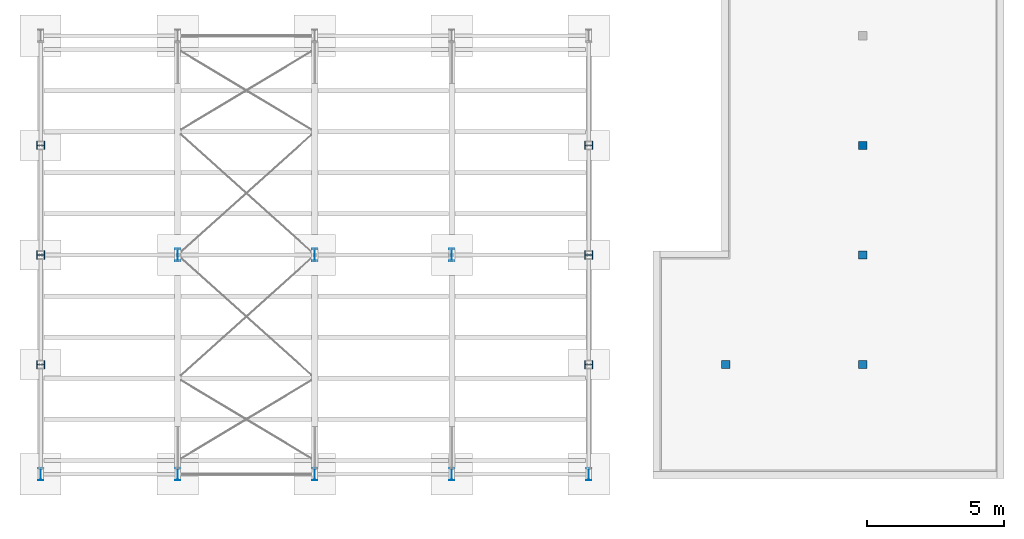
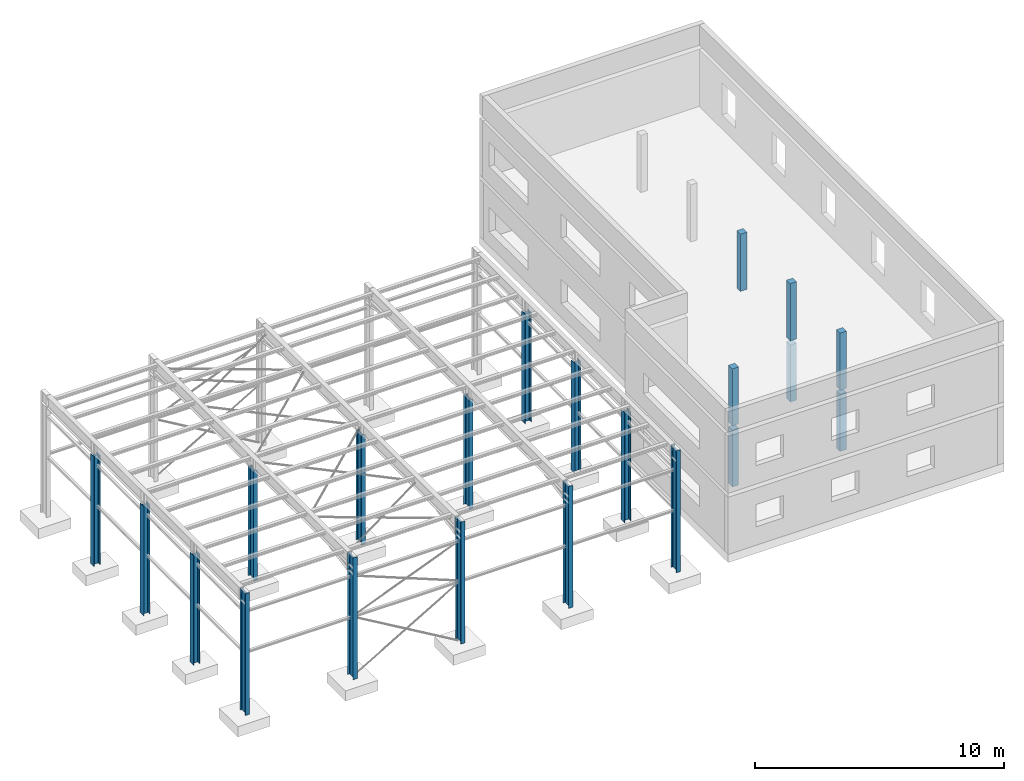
# Not in any storey, part 1 of 50: 21 columns, 36 openings.
"""IFC4 model written with IfcOpenShell, lengths in metres."""

from ifc_helpers import new_model, entity, si_unit, converted_unit, derived_unit, direction, frame, origin, origin_2d, origin_2d_with_axis, place, context, subcontext, project, spatial, indexed_curve, circle, i_section, outline, extrude, clip, halfspace, source, transform, mapped, material, type_object, type_shapes, element, save


model = new_model("IFC4")

# Units and contexts
model_context = context("Model", 3, precision=1e-05, world=origin(), true_north=direction((6.123233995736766e-17, 1.0)))
body_context = subcontext(model_context, "Body", "Model", "MODEL_VIEW")
ifc_project = project(units=[si_unit("LENGTHUNIT", "METRE"), si_unit("AREAUNIT", "SQUARE_METRE"), converted_unit("PLANEANGLEUNIT", "DEGREE", entity("IfcPlaneAngleMeasure", 0.017453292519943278), si_unit("PLANEANGLEUNIT", "RADIAN"), dimensions=[0, 0, 0, 0, 0, 0, 0]), si_unit("VOLUMEUNIT", "CUBIC_METRE"), derived_unit("THERMALTRANSMITTANCEUNIT", [(si_unit("MASSUNIT", "GRAM", prefix="KILO"), 1), (si_unit("THERMODYNAMICTEMPERATUREUNIT", "KELVIN"), -1), (si_unit("TIMEUNIT", "SECOND"), -3)])], contexts=[model_context])

# Site
site_placement = place(None, origin())
site = spatial("IfcSite", under=ifc_project, at=site_placement, Name="Default", CompositionType="ELEMENT")

# Columns
ifc_material_1 = material(Name="Ortbeton - bewehrt Verputzt", Category="Generisch")
column_type_1 = type_object("IfcColumnType", Name="STB Stütze - rechteckig:STB 300 x 300", PredefinedType="COLUMN", material=ifc_material_1)
shared_shape_1 = source(origin(), body_context, "Body", "SweptSolid", [
    extrude(outline(indexed_curve([(-0.15000000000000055, -0.14999999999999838), (0.15000000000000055, -0.14999999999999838), (0.15000000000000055, 0.15000000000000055), (-0.15000000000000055, 0.15000000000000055), (-0.15000000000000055, -0.14999999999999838)], self_intersect=False)), frame((33.19014487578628, 13.929767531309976, 3.0), z_axis=(0.0, 0.0, 1.0), x_axis=(-1.0, 0.0, 0.0)), (0.0, 0.0, 1.0), 2.8000000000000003),
])
type_shapes(column_type_1, [shared_shape_1])
column_1_placement = place(site_placement, origin())
element("IfcColumn", 1, at=column_1_placement, inside=site, type_object=column_type_1, material=ifc_material_1, Name="STB Stütze - rechteckig:STB 300 x 300", ObjectType="STB Stütze - rechteckig:STB 300 x 300", PredefinedType="COLUMN", context=body_context, shape_type="MappedRepresentation", body=[
    mapped(shared_shape_1, transform((0.0, 0.0, 0.0), scale=1.0)),
])
column_type_2 = type_object("IfcColumnType", Name="STB Stütze - rechteckig:STB 300 x 300", PredefinedType="COLUMN", material=ifc_material_1)
shared_shape_2 = source(origin(), body_context, "Body", "SweptSolid", [
    extrude(outline(indexed_curve([(-0.15000000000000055, -0.14999999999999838), (0.15000000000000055, -0.14999999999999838), (0.15000000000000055, 0.15000000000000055), (-0.15000000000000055, 0.15000000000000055), (-0.15000000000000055, -0.14999999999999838)], self_intersect=False)), frame((33.190144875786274, 9.929767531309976, 3.0), z_axis=(0.0, 0.0, 1.0), x_axis=(-1.0, 0.0, 0.0)), (0.0, 0.0, 1.0), 2.8000000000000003),
])
type_shapes(column_type_2, [shared_shape_2])
column_2_placement = place(site_placement, origin())
element("IfcColumn", 2, at=column_2_placement, inside=site, type_object=column_type_2, material=ifc_material_1, Name="STB Stütze - rechteckig:STB 300 x 300", ObjectType="STB Stütze - rechteckig:STB 300 x 300", PredefinedType="COLUMN", context=body_context, shape_type="MappedRepresentation", body=[
    mapped(shared_shape_2, transform((0.0, 0.0, 0.0), scale=1.0)),
])
column_type_3 = type_object("IfcColumnType", Name="STB Stütze - rechteckig:STB 300 x 300", PredefinedType="COLUMN", material=ifc_material_1)
shared_shape_3 = source(origin(), body_context, "Body", "SweptSolid", [
    extrude(outline(indexed_curve([(-0.15000000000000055, -0.14999999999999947), (0.15000000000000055, -0.14999999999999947), (0.15000000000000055, 0.15000000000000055), (-0.15000000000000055, 0.15000000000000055), (-0.15000000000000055, -0.14999999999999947)], self_intersect=False)), frame((33.19014487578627, 5.929767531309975, 3.0), z_axis=(0.0, 0.0, 1.0), x_axis=(-1.0, 0.0, 0.0)), (0.0, 0.0, 1.0), 2.8000000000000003),
])
type_shapes(column_type_3, [shared_shape_3])
column_3_placement = place(site_placement, origin())
element("IfcColumn", 3, at=column_3_placement, inside=site, type_object=column_type_3, material=ifc_material_1, Name="STB Stütze - rechteckig:STB 300 x 300", ObjectType="STB Stütze - rechteckig:STB 300 x 300", PredefinedType="COLUMN", context=body_context, shape_type="MappedRepresentation", body=[
    mapped(shared_shape_3, transform((0.0, 0.0, 0.0), scale=1.0)),
])
column_type_4 = type_object("IfcColumnType", Name="STB Stütze - rechteckig:STB 300 x 300", PredefinedType="COLUMN", material=ifc_material_1)
shared_shape_4 = source(origin(), body_context, "Body", "SweptSolid", [
    extrude(outline(indexed_curve([(-0.15000000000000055, -0.14999999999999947), (0.15000000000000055, -0.14999999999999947), (0.15000000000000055, 0.15000000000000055), (-0.15000000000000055, 0.15000000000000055), (-0.15000000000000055, -0.14999999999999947)], self_intersect=False)), frame((28.190144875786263, 5.929767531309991, 3.0), z_axis=(0.0, 0.0, 1.0), x_axis=(-1.0, 0.0, 0.0)), (0.0, 0.0, 1.0), 2.8000000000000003),
])
type_shapes(column_type_4, [shared_shape_4])
column_4_placement = place(site_placement, origin())
element("IfcColumn", 4, at=column_4_placement, inside=site, type_object=column_type_4, material=ifc_material_1, Name="STB Stütze - rechteckig:STB 300 x 300", ObjectType="STB Stütze - rechteckig:STB 300 x 300", PredefinedType="COLUMN", context=body_context, shape_type="MappedRepresentation", body=[
    mapped(shared_shape_4, transform((0.0, 0.0, 0.0), scale=1.0)),
])
column_type_5 = type_object("IfcColumnType", Name="STB Stütze - rechteckig:STB 300 x 300", PredefinedType="COLUMN", material=ifc_material_1)
shared_shape_5 = source(origin(), body_context, "Body", "SweptSolid", [
    extrude(outline(indexed_curve([(-0.15000000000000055, -0.14999999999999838), (0.15000000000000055, -0.14999999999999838), (0.15000000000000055, 0.15000000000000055), (-0.15000000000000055, 0.15000000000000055), (-0.15000000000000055, -0.14999999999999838)], self_intersect=False)), frame((33.190144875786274, 9.929767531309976, 0.0), z_axis=(0.0, 0.0, 1.0), x_axis=(-1.0, 0.0, 0.0)), (0.0, 0.0, 1.0), 2.8000000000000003),
])
type_shapes(column_type_5, [shared_shape_5])
column_5_placement = place(site_placement, origin())
element("IfcColumn", 5, at=column_5_placement, inside=site, type_object=column_type_5, material=ifc_material_1, Name="STB Stütze - rechteckig:STB 300 x 300", ObjectType="STB Stütze - rechteckig:STB 300 x 300", PredefinedType="COLUMN", context=body_context, shape_type="MappedRepresentation", body=[
    mapped(shared_shape_5, transform((0.0, 0.0, 0.0), scale=1.0)),
])
column_type_6 = type_object("IfcColumnType", Name="STB Stütze - rechteckig:STB 300 x 300", PredefinedType="COLUMN", material=ifc_material_1)
shared_shape_6 = source(origin(), body_context, "Body", "SweptSolid", [
    extrude(outline(indexed_curve([(-0.15000000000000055, -0.14999999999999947), (0.15000000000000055, -0.14999999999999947), (0.15000000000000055, 0.15000000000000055), (-0.15000000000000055, 0.15000000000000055), (-0.15000000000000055, -0.14999999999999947)], self_intersect=False)), frame((33.19014487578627, 5.929767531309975, 0.0), z_axis=(0.0, 0.0, 1.0), x_axis=(-1.0, 0.0, 0.0)), (0.0, 0.0, 1.0), 2.8000000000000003),
])
type_shapes(column_type_6, [shared_shape_6])
column_6_placement = place(site_placement, origin())
element("IfcColumn", 6, at=column_6_placement, inside=site, type_object=column_type_6, material=ifc_material_1, Name="STB Stütze - rechteckig:STB 300 x 300", ObjectType="STB Stütze - rechteckig:STB 300 x 300", PredefinedType="COLUMN", context=body_context, shape_type="MappedRepresentation", body=[
    mapped(shared_shape_6, transform((0.0, 0.0, 0.0), scale=1.0)),
])
column_type_7 = type_object("IfcColumnType", Name="STB Stütze - rechteckig:STB 300 x 300", PredefinedType="COLUMN", material=ifc_material_1)
shared_shape_7 = source(origin(), body_context, "Body", "SweptSolid", [
    extrude(outline(indexed_curve([(-0.15000000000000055, -0.14999999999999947), (0.15000000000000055, -0.14999999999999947), (0.15000000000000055, 0.15000000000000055), (-0.15000000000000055, 0.15000000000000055), (-0.15000000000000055, -0.14999999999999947)], self_intersect=False)), frame((28.190144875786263, 5.929767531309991, 0.0), z_axis=(0.0, 0.0, 1.0), x_axis=(-1.0, 0.0, 0.0)), (0.0, 0.0, 1.0), 2.8000000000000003),
])
type_shapes(column_type_7, [shared_shape_7])
column_7_placement = place(site_placement, origin())
element("IfcColumn", 7, at=column_7_placement, inside=site, type_object=column_type_7, material=ifc_material_1, Name="STB Stütze - rechteckig:STB 300 x 300", ObjectType="STB Stütze - rechteckig:STB 300 x 300", PredefinedType="COLUMN", context=body_context, shape_type="MappedRepresentation", body=[
    mapped(shared_shape_7, transform((0.0, 0.0, 0.0), scale=1.0)),
])

# Column, openings
ifc_material_2 = material(Name="Metall - Baustahl S235", Category="Metall")
column_type_8 = type_object("IfcColumnType", Name="IPE Stütze:IPE 450", PredefinedType="COLUMN", material=ifc_material_2)
column_8_placement = place(site_placement, frame((3.190144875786, 1.92976753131, 6.469233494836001), z_axis=(0.0, 0.0, 1.0), x_axis=(1.0, 0.0, 0.0)))
column_8 = element("IfcColumn", 8, at=column_8_placement, inside=site, type_object=column_type_8, material=ifc_material_2, Name="IPE Stütze:IPE 450", ObjectType="IPE 450", context=model_context, shape_type="Clipping", body=[
    clip(extrude(i_section(OverallWidth=0.19, OverallDepth=0.45, WebThickness=0.0094, FlangeThickness=0.0146, FilletRadius=0.021, at=origin_2d()), origin(), (0.0, 0.0, -1.0), 6.469233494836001), halfspace(frame((-3.190144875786, -1.92976753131, -0.489234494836), z_axis=(0.0, 0.0, -1.0), x_axis=(-1.0, 0.0, 0.0)), True)),
])
opening_1_placement = place(column_8_placement, frame((-0.05, 0.2099, -0.6742334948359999), z_axis=(0.0, 1.0, 0.0), x_axis=(-1.0, 0.0, 0.0)))
element("IfcOpeningElement", 9, at=opening_1_placement, cuts=column_8, ObjectType="Opening", context=model_context, shape_type="SweptSolid", body=[
    extrude(circle(Radius=0.009000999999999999, at=origin_2d_with_axis()), origin(), (0.0, 0.0, 1.0), 0.0156),
])
opening_2_placement = place(column_8_placement, frame((-0.05, 0.2099, -0.574233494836), z_axis=(0.0, 1.0, 0.0), x_axis=(-1.0, 0.0, 0.0)))
element("IfcOpeningElement", 10, at=opening_2_placement, cuts=column_8, ObjectType="Opening", context=model_context, shape_type="SweptSolid", body=[
    extrude(circle(Radius=0.009000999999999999, at=origin_2d_with_axis()), origin(), (0.0, 0.0, 1.0), 0.0156),
])
opening_3_placement = place(column_8_placement, frame((0.05, 0.2099, -1.0242334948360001), z_axis=(0.0, 1.0, 0.0), x_axis=(-1.0, 0.0, 0.0)))
element("IfcOpeningElement", 11, at=opening_3_placement, cuts=column_8, ObjectType="Opening", context=model_context, shape_type="SweptSolid", body=[
    extrude(circle(Radius=0.009000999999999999, at=origin_2d_with_axis()), origin(), (0.0, 0.0, 1.0), 0.0156),
])
opening_4_placement = place(column_8_placement, frame((-0.05, 0.2099, -1.0242334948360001), z_axis=(0.0, 1.0, 0.0), x_axis=(-1.0, 0.0, 0.0)))
element("IfcOpeningElement", 12, at=opening_4_placement, cuts=column_8, ObjectType="Opening", context=model_context, shape_type="SweptSolid", body=[
    extrude(circle(Radius=0.009000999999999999, at=origin_2d_with_axis()), origin(), (0.0, 0.0, 1.0), 0.0156),
])
opening_5_placement = place(column_8_placement, frame((0.05, 0.2099, -0.6742334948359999), z_axis=(0.0, 1.0, 0.0), x_axis=(-1.0, 0.0, 0.0)))
element("IfcOpeningElement", 13, at=opening_5_placement, cuts=column_8, ObjectType="Opening", context=model_context, shape_type="SweptSolid", body=[
    extrude(circle(Radius=0.009000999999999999, at=origin_2d_with_axis()), origin(), (0.0, 0.0, 1.0), 0.0156),
])
opening_6_placement = place(column_8_placement, frame((0.05, 0.2099, -0.574233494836), z_axis=(0.0, 1.0, 0.0), x_axis=(-1.0, 0.0, 0.0)))
element("IfcOpeningElement", 14, at=opening_6_placement, cuts=column_8, ObjectType="Opening", context=model_context, shape_type="SweptSolid", body=[
    extrude(circle(Radius=0.009000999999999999, at=origin_2d_with_axis()), origin(), (0.0, 0.0, 1.0), 0.0156),
])

column_9_placement = place(site_placement, frame((8.190144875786, 1.92976753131, 6.469233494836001), z_axis=(0.0, 0.0, 1.0), x_axis=(1.0, 0.0, 0.0)))
column_9 = element("IfcColumn", 15, at=column_9_placement, inside=site, type_object=column_type_8, material=ifc_material_2, Name="IPE Stütze:IPE 450", ObjectType="IPE 450", context=model_context, shape_type="Clipping", body=[
    clip(extrude(i_section(OverallWidth=0.19, OverallDepth=0.45, WebThickness=0.0094, FlangeThickness=0.0146, FilletRadius=0.021, at=origin_2d()), origin(), (0.0, 0.0, -1.0), 6.469233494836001), halfspace(frame((-8.190144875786, -1.92976753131, -0.489234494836), z_axis=(0.0, 0.0, -1.0), x_axis=(-1.0, 0.0, 0.0)), True)),
])
opening_7_placement = place(column_9_placement, frame((0.05, 0.2099, -0.574233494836), z_axis=(0.0, 1.0, 0.0), x_axis=(-1.0, 0.0, 0.0)))
element("IfcOpeningElement", 16, at=opening_7_placement, cuts=column_9, ObjectType="Opening", context=model_context, shape_type="SweptSolid", body=[
    extrude(circle(Radius=0.009000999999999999, at=origin_2d_with_axis()), origin(), (0.0, 0.0, 1.0), 0.0156),
])
opening_8_placement = place(column_9_placement, frame((0.05, 0.2099, -1.3242334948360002), z_axis=(0.0, 1.0, 0.0), x_axis=(-1.0, 0.0, 0.0)))
element("IfcOpeningElement", 17, at=opening_8_placement, cuts=column_9, ObjectType="Opening", context=model_context, shape_type="SweptSolid", body=[
    extrude(circle(Radius=0.009000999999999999, at=origin_2d_with_axis()), origin(), (0.0, 0.0, 1.0), 0.0156),
])
opening_9_placement = place(column_9_placement, frame((0.05, 0.2099, -0.6742334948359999), z_axis=(0.0, 1.0, 0.0), x_axis=(-1.0, 0.0, 0.0)))
element("IfcOpeningElement", 18, at=opening_9_placement, cuts=column_9, ObjectType="Opening", context=model_context, shape_type="SweptSolid", body=[
    extrude(circle(Radius=0.009000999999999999, at=origin_2d_with_axis()), origin(), (0.0, 0.0, 1.0), 0.0156),
])
opening_10_placement = place(column_9_placement, frame((-0.05, 0.2099, -0.574233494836), z_axis=(0.0, 1.0, 0.0), x_axis=(-1.0, 0.0, 0.0)))
element("IfcOpeningElement", 19, at=opening_10_placement, cuts=column_9, ObjectType="Opening", context=model_context, shape_type="SweptSolid", body=[
    extrude(circle(Radius=0.009000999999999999, at=origin_2d_with_axis()), origin(), (0.0, 0.0, 1.0), 0.0156),
])
opening_11_placement = place(column_9_placement, frame((-0.05, 0.2099, -1.3242334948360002), z_axis=(0.0, 1.0, 0.0), x_axis=(-1.0, 0.0, 0.0)))
element("IfcOpeningElement", 20, at=opening_11_placement, cuts=column_9, ObjectType="Opening", context=model_context, shape_type="SweptSolid", body=[
    extrude(circle(Radius=0.009000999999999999, at=origin_2d_with_axis()), origin(), (0.0, 0.0, 1.0), 0.0156),
])
opening_12_placement = place(column_9_placement, frame((-0.05, 0.2099, -0.6742334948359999), z_axis=(0.0, 1.0, 0.0), x_axis=(-1.0, 0.0, 0.0)))
element("IfcOpeningElement", 21, at=opening_12_placement, cuts=column_9, ObjectType="Opening", context=model_context, shape_type="SweptSolid", body=[
    extrude(circle(Radius=0.009000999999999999, at=origin_2d_with_axis()), origin(), (0.0, 0.0, 1.0), 0.0156),
])
opening_13_placement = place(column_9_placement, frame((-0.05, 0.2099, -1.0242334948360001), z_axis=(0.0, 1.0, 0.0), x_axis=(-1.0, 0.0, 0.0)))
element("IfcOpeningElement", 22, at=opening_13_placement, cuts=column_9, ObjectType="Opening", context=model_context, shape_type="SweptSolid", body=[
    extrude(circle(Radius=0.009000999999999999, at=origin_2d_with_axis()), origin(), (0.0, 0.0, 1.0), 0.0156),
])
opening_14_placement = place(column_9_placement, frame((0.05, 0.2099, -1.0242334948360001), z_axis=(0.0, 1.0, 0.0), x_axis=(-1.0, 0.0, 0.0)))
element("IfcOpeningElement", 23, at=opening_14_placement, cuts=column_9, ObjectType="Opening", context=model_context, shape_type="SweptSolid", body=[
    extrude(circle(Radius=0.009000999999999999, at=origin_2d_with_axis()), origin(), (0.0, 0.0, 1.0), 0.0156),
])

column_10_placement = place(site_placement, frame((13.190144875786, 1.92976753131, 6.469233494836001), z_axis=(0.0, 0.0, 1.0), x_axis=(1.0, 0.0, 0.0)))
column_10 = element("IfcColumn", 24, at=column_10_placement, inside=site, type_object=column_type_8, material=ifc_material_2, Name="IPE Stütze:IPE 450", ObjectType="IPE 450", context=model_context, shape_type="Clipping", body=[
    clip(extrude(i_section(OverallWidth=0.19, OverallDepth=0.45, WebThickness=0.0094, FlangeThickness=0.0146, FilletRadius=0.021, at=origin_2d()), origin(), (0.0, 0.0, -1.0), 6.469233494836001), halfspace(frame((-13.190144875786, -1.92976753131, -0.489234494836), z_axis=(0.0, 0.0, -1.0), x_axis=(-1.0, 0.0, 0.0)), True)),
])
opening_15_placement = place(column_10_placement, frame((-0.05, 0.2099, -1.3242334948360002), z_axis=(0.0, 1.0, 0.0), x_axis=(-1.0, 0.0, 0.0)))
element("IfcOpeningElement", 25, at=opening_15_placement, cuts=column_10, ObjectType="Opening", context=model_context, shape_type="SweptSolid", body=[
    extrude(circle(Radius=0.009000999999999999, at=origin_2d_with_axis()), origin(), (0.0, 0.0, 1.0), 0.0156),
])
opening_16_placement = place(column_10_placement, frame((-0.05, 0.2099, -1.0242334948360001), z_axis=(0.0, 1.0, 0.0), x_axis=(-1.0, 0.0, 0.0)))
element("IfcOpeningElement", 26, at=opening_16_placement, cuts=column_10, ObjectType="Opening", context=model_context, shape_type="SweptSolid", body=[
    extrude(circle(Radius=0.009000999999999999, at=origin_2d_with_axis()), origin(), (0.0, 0.0, 1.0), 0.0156),
])
opening_17_placement = place(column_10_placement, frame((0.05, 0.2099, -1.3242334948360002), z_axis=(0.0, 1.0, 0.0), x_axis=(-1.0, 0.0, 0.0)))
element("IfcOpeningElement", 27, at=opening_17_placement, cuts=column_10, ObjectType="Opening", context=model_context, shape_type="SweptSolid", body=[
    extrude(circle(Radius=0.009000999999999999, at=origin_2d_with_axis()), origin(), (0.0, 0.0, 1.0), 0.0156),
])
opening_18_placement = place(column_10_placement, frame((0.05, 0.2099, -0.6742334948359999), z_axis=(0.0, 1.0, 0.0), x_axis=(-1.0, 0.0, 0.0)))
element("IfcOpeningElement", 28, at=opening_18_placement, cuts=column_10, ObjectType="Opening", context=model_context, shape_type="SweptSolid", body=[
    extrude(circle(Radius=0.009000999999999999, at=origin_2d_with_axis()), origin(), (0.0, 0.0, 1.0), 0.0156),
])
opening_19_placement = place(column_10_placement, frame((-0.05, 0.2099, -0.574233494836), z_axis=(0.0, 1.0, 0.0), x_axis=(-1.0, 0.0, 0.0)))
element("IfcOpeningElement", 29, at=opening_19_placement, cuts=column_10, ObjectType="Opening", context=model_context, shape_type="SweptSolid", body=[
    extrude(circle(Radius=0.009000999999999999, at=origin_2d_with_axis()), origin(), (0.0, 0.0, 1.0), 0.0156),
])
opening_20_placement = place(column_10_placement, frame((-0.05, 0.2099, -0.6742334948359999), z_axis=(0.0, 1.0, 0.0), x_axis=(-1.0, 0.0, 0.0)))
element("IfcOpeningElement", 30, at=opening_20_placement, cuts=column_10, ObjectType="Opening", context=model_context, shape_type="SweptSolid", body=[
    extrude(circle(Radius=0.009000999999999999, at=origin_2d_with_axis()), origin(), (0.0, 0.0, 1.0), 0.0156),
])
opening_21_placement = place(column_10_placement, frame((0.05, 0.2099, -1.0242334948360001), z_axis=(0.0, 1.0, 0.0), x_axis=(-1.0, 0.0, 0.0)))
element("IfcOpeningElement", 31, at=opening_21_placement, cuts=column_10, ObjectType="Opening", context=model_context, shape_type="SweptSolid", body=[
    extrude(circle(Radius=0.009000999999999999, at=origin_2d_with_axis()), origin(), (0.0, 0.0, 1.0), 0.0156),
])
opening_22_placement = place(column_10_placement, frame((0.05, 0.2099, -0.574233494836), z_axis=(0.0, 1.0, 0.0), x_axis=(-1.0, 0.0, 0.0)))
element("IfcOpeningElement", 32, at=opening_22_placement, cuts=column_10, ObjectType="Opening", context=model_context, shape_type="SweptSolid", body=[
    extrude(circle(Radius=0.009000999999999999, at=origin_2d_with_axis()), origin(), (0.0, 0.0, 1.0), 0.0156),
])

column_11_placement = place(site_placement, frame((18.190144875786, 1.92976753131, 6.469233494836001), z_axis=(0.0, 0.0, 1.0), x_axis=(1.0, 0.0, 0.0)))
column_11 = element("IfcColumn", 33, at=column_11_placement, inside=site, type_object=column_type_8, material=ifc_material_2, Name="IPE Stütze:IPE 450", ObjectType="IPE 450", context=model_context, shape_type="Clipping", body=[
    clip(extrude(i_section(OverallWidth=0.19, OverallDepth=0.45, WebThickness=0.0094, FlangeThickness=0.0146, FilletRadius=0.021, at=origin_2d()), origin(), (0.0, 0.0, -1.0), 6.469233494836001), halfspace(frame((-18.190144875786, -1.92976753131, -0.489234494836), z_axis=(0.0, 0.0, -1.0), x_axis=(-1.0, 0.0, 0.0)), True)),
])
opening_23_placement = place(column_11_placement, frame((0.05, 0.2099, -1.3242334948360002), z_axis=(0.0, 1.0, 0.0), x_axis=(-1.0, 0.0, 0.0)))
element("IfcOpeningElement", 34, at=opening_23_placement, cuts=column_11, ObjectType="Opening", context=model_context, shape_type="SweptSolid", body=[
    extrude(circle(Radius=0.009000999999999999, at=origin_2d_with_axis()), origin(), (0.0, 0.0, 1.0), 0.0156),
])
opening_24_placement = place(column_11_placement, frame((-0.05, 0.2099, -0.574233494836), z_axis=(0.0, 1.0, 0.0), x_axis=(-1.0, 0.0, 0.0)))
element("IfcOpeningElement", 35, at=opening_24_placement, cuts=column_11, ObjectType="Opening", context=model_context, shape_type="SweptSolid", body=[
    extrude(circle(Radius=0.009000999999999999, at=origin_2d_with_axis()), origin(), (0.0, 0.0, 1.0), 0.0156),
])
opening_25_placement = place(column_11_placement, frame((0.05, 0.2099, -0.574233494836), z_axis=(0.0, 1.0, 0.0), x_axis=(-1.0, 0.0, 0.0)))
element("IfcOpeningElement", 36, at=opening_25_placement, cuts=column_11, ObjectType="Opening", context=model_context, shape_type="SweptSolid", body=[
    extrude(circle(Radius=0.009000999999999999, at=origin_2d_with_axis()), origin(), (0.0, 0.0, 1.0), 0.0156),
])
opening_26_placement = place(column_11_placement, frame((-0.05, 0.2099, -1.0242334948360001), z_axis=(0.0, 1.0, 0.0), x_axis=(-1.0, 0.0, 0.0)))
element("IfcOpeningElement", 37, at=opening_26_placement, cuts=column_11, ObjectType="Opening", context=model_context, shape_type="SweptSolid", body=[
    extrude(circle(Radius=0.009000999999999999, at=origin_2d_with_axis()), origin(), (0.0, 0.0, 1.0), 0.0156),
])
opening_27_placement = place(column_11_placement, frame((-0.05, 0.2099, -0.6742334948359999), z_axis=(0.0, 1.0, 0.0), x_axis=(-1.0, 0.0, 0.0)))
element("IfcOpeningElement", 38, at=opening_27_placement, cuts=column_11, ObjectType="Opening", context=model_context, shape_type="SweptSolid", body=[
    extrude(circle(Radius=0.009000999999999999, at=origin_2d_with_axis()), origin(), (0.0, 0.0, 1.0), 0.0156),
])
opening_28_placement = place(column_11_placement, frame((0.05, 0.2099, -0.6742334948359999), z_axis=(0.0, 1.0, 0.0), x_axis=(-1.0, 0.0, 0.0)))
element("IfcOpeningElement", 39, at=opening_28_placement, cuts=column_11, ObjectType="Opening", context=model_context, shape_type="SweptSolid", body=[
    extrude(circle(Radius=0.009000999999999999, at=origin_2d_with_axis()), origin(), (0.0, 0.0, 1.0), 0.0156),
])
opening_29_placement = place(column_11_placement, frame((-0.05, 0.2099, -1.3242334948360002), z_axis=(0.0, 1.0, 0.0), x_axis=(-1.0, 0.0, 0.0)))
element("IfcOpeningElement", 40, at=opening_29_placement, cuts=column_11, ObjectType="Opening", context=model_context, shape_type="SweptSolid", body=[
    extrude(circle(Radius=0.009000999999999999, at=origin_2d_with_axis()), origin(), (0.0, 0.0, 1.0), 0.0156),
])
opening_30_placement = place(column_11_placement, frame((0.05, 0.2099, -1.0242334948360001), z_axis=(0.0, 1.0, 0.0), x_axis=(-1.0, 0.0, 0.0)))
element("IfcOpeningElement", 41, at=opening_30_placement, cuts=column_11, ObjectType="Opening", context=model_context, shape_type="SweptSolid", body=[
    extrude(circle(Radius=0.009000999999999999, at=origin_2d_with_axis()), origin(), (0.0, 0.0, 1.0), 0.0156),
])

column_12_placement = place(site_placement, frame((23.190144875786, 1.92976753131, 6.469233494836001), z_axis=(0.0, 0.0, 1.0), x_axis=(1.0, 0.0, 0.0)))
column_12 = element("IfcColumn", 42, at=column_12_placement, inside=site, type_object=column_type_8, material=ifc_material_2, Name="IPE Stütze:IPE 450", ObjectType="IPE 450", context=model_context, shape_type="Clipping", body=[
    clip(extrude(i_section(OverallWidth=0.19, OverallDepth=0.45, WebThickness=0.0094, FlangeThickness=0.0146, FilletRadius=0.021, at=origin_2d()), origin(), (0.0, 0.0, -1.0), 6.469233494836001), halfspace(frame((-23.190144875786, -1.92976753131, -0.489234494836), z_axis=(0.0, 0.0, -1.0), x_axis=(-1.0, 0.0, 0.0)), True)),
])
opening_31_placement = place(column_12_placement, frame((-0.05, 0.2099, -0.574233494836), z_axis=(0.0, 1.0, 0.0), x_axis=(-1.0, 0.0, 0.0)))
element("IfcOpeningElement", 43, at=opening_31_placement, cuts=column_12, ObjectType="Opening", context=model_context, shape_type="SweptSolid", body=[
    extrude(circle(Radius=0.009000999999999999, at=origin_2d_with_axis()), origin(), (0.0, 0.0, 1.0), 0.0156),
])
opening_32_placement = place(column_12_placement, frame((0.05, 0.2099, -1.0242334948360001), z_axis=(0.0, 1.0, 0.0), x_axis=(-1.0, 0.0, 0.0)))
element("IfcOpeningElement", 44, at=opening_32_placement, cuts=column_12, ObjectType="Opening", context=model_context, shape_type="SweptSolid", body=[
    extrude(circle(Radius=0.009000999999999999, at=origin_2d_with_axis()), origin(), (0.0, 0.0, 1.0), 0.0156),
])
opening_33_placement = place(column_12_placement, frame((0.05, 0.2099, -0.6742334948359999), z_axis=(0.0, 1.0, 0.0), x_axis=(-1.0, 0.0, 0.0)))
element("IfcOpeningElement", 45, at=opening_33_placement, cuts=column_12, ObjectType="Opening", context=model_context, shape_type="SweptSolid", body=[
    extrude(circle(Radius=0.009000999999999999, at=origin_2d_with_axis()), origin(), (0.0, 0.0, 1.0), 0.0156),
])
opening_34_placement = place(column_12_placement, frame((-0.05, 0.2099, -0.6742334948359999), z_axis=(0.0, 1.0, 0.0), x_axis=(-1.0, 0.0, 0.0)))
element("IfcOpeningElement", 46, at=opening_34_placement, cuts=column_12, ObjectType="Opening", context=model_context, shape_type="SweptSolid", body=[
    extrude(circle(Radius=0.009000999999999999, at=origin_2d_with_axis()), origin(), (0.0, 0.0, 1.0), 0.0156),
])
opening_35_placement = place(column_12_placement, frame((-0.05, 0.2099, -1.0242334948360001), z_axis=(0.0, 1.0, 0.0), x_axis=(-1.0, 0.0, 0.0)))
element("IfcOpeningElement", 47, at=opening_35_placement, cuts=column_12, ObjectType="Opening", context=model_context, shape_type="SweptSolid", body=[
    extrude(circle(Radius=0.009000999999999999, at=origin_2d_with_axis()), origin(), (0.0, 0.0, 1.0), 0.0156),
])
opening_36_placement = place(column_12_placement, frame((0.05, 0.2099, -0.574233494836), z_axis=(0.0, 1.0, 0.0), x_axis=(-1.0, 0.0, 0.0)))
element("IfcOpeningElement", 48, at=opening_36_placement, cuts=column_12, ObjectType="Opening", context=model_context, shape_type="SweptSolid", body=[
    extrude(circle(Radius=0.009000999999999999, at=origin_2d_with_axis()), origin(), (0.0, 0.0, 1.0), 0.0156),
])

# Columns
column_13_placement = place(site_placement, frame((8.190144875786, 9.92976753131, 6.469233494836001), z_axis=(0.0, 0.0, 1.0), x_axis=(1.0, 0.0, 0.0)))
element("IfcColumn", 49, at=column_13_placement, inside=site, type_object=column_type_8, material=ifc_material_2, Name="IPE Stütze:IPE 450", ObjectType="IPE 450", context=model_context, shape_type="Clipping", body=[
    clip(extrude(i_section(OverallWidth=0.19, OverallDepth=0.45, WebThickness=0.0094, FlangeThickness=0.0146, FilletRadius=0.021, at=origin_2d()), origin(), (0.0, 0.0, -1.0), 6.469233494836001), halfspace(frame((-8.190144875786, -9.92976753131, -1.084234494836), z_axis=(0.0, 0.0, -1.0), x_axis=(-1.0, 0.0, 0.0)), True)),
])
column_14_placement = place(site_placement, frame((13.190144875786, 9.92976753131, 6.469233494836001), z_axis=(0.0, 0.0, 1.0), x_axis=(1.0, 0.0, 0.0)))
element("IfcColumn", 50, at=column_14_placement, inside=site, type_object=column_type_8, material=ifc_material_2, Name="IPE Stütze:IPE 450", ObjectType="IPE 450", context=model_context, shape_type="Clipping", body=[
    clip(extrude(i_section(OverallWidth=0.19, OverallDepth=0.45, WebThickness=0.0094, FlangeThickness=0.0146, FilletRadius=0.021, at=origin_2d()), origin(), (0.0, 0.0, -1.0), 6.469233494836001), halfspace(frame((-13.190144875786, -9.92976753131, -1.084234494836), z_axis=(0.0, 0.0, -1.0), x_axis=(-1.0, 0.0, 0.0)), True)),
])
column_15_placement = place(site_placement, frame((18.190144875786, 9.92976753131, 6.469233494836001), z_axis=(0.0, 0.0, 1.0), x_axis=(1.0, 0.0, 0.0)))
element("IfcColumn", 51, at=column_15_placement, inside=site, type_object=column_type_8, material=ifc_material_2, Name="IPE Stütze:IPE 450", ObjectType="IPE 450", context=model_context, shape_type="Clipping", body=[
    clip(extrude(i_section(OverallWidth=0.19, OverallDepth=0.45, WebThickness=0.0094, FlangeThickness=0.0146, FilletRadius=0.021, at=origin_2d()), origin(), (0.0, 0.0, -1.0), 6.469233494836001), halfspace(frame((-18.190144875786, -9.92976753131, -1.084234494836), z_axis=(0.0, 0.0, -1.0), x_axis=(-1.0, 0.0, 0.0)), True)),
])
column_type_9 = type_object("IfcColumnType", Name="HEA Stütze:HEA 300", PredefinedType="COLUMN", material=ifc_material_2)
column_16_placement = place(site_placement, frame((3.190144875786, 13.92976753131, 6.35862646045), z_axis=(0.0, 0.0, 1.0), x_axis=(0.0, -1.0, 0.0)))
element("IfcColumn", 52, at=column_16_placement, inside=site, type_object=column_type_9, material=ifc_material_2, Name="HEA Stütze:HEA 300", ObjectType="HEA 300", context=model_context, shape_type="Clipping", body=[
    clip(extrude(i_section(OverallWidth=0.3, OverallDepth=0.29, WebThickness=0.0085, FlangeThickness=0.014, FilletRadius=0.027, at=origin_2d()), origin(), (0.0, 0.0, -1.0), 6.35862646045), halfspace(frame((13.92976753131, -3.190144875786, -0.9736274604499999), z_axis=(0.0, 0.0, -1.0), x_axis=(0.0, -1.0, 0.0)), True)),
])
column_17_placement = place(site_placement, frame((3.190144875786, 9.92976753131, 6.35862646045), z_axis=(0.0, 0.0, 1.0), x_axis=(0.0, -1.0, 0.0)))
element("IfcColumn", 53, at=column_17_placement, inside=site, type_object=column_type_9, material=ifc_material_2, Name="HEA Stütze:HEA 300", ObjectType="HEA 300", context=model_context, shape_type="Clipping", body=[
    clip(extrude(i_section(OverallWidth=0.3, OverallDepth=0.29, WebThickness=0.0085, FlangeThickness=0.014, FilletRadius=0.027, at=origin_2d()), origin(), (0.0, 0.0, -1.0), 6.35862646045), halfspace(frame((9.92976753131, -3.190144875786, -0.9736274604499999), z_axis=(0.0, 0.0, -1.0), x_axis=(0.0, -1.0, 0.0)), True)),
])
column_18_placement = place(site_placement, frame((3.190144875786, 5.92976753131, 6.35862646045), z_axis=(0.0, 0.0, 1.0), x_axis=(0.0, -1.0, 0.0)))
element("IfcColumn", 54, at=column_18_placement, inside=site, type_object=column_type_9, material=ifc_material_2, Name="HEA Stütze:HEA 300", ObjectType="HEA 300", context=model_context, shape_type="Clipping", body=[
    clip(extrude(i_section(OverallWidth=0.3, OverallDepth=0.29, WebThickness=0.0085, FlangeThickness=0.014, FilletRadius=0.027, at=origin_2d()), origin(), (0.0, 0.0, -1.0), 6.35862646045), halfspace(frame((5.92976753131, -3.190144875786, -0.9736274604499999), z_axis=(0.0, 0.0, -1.0), x_axis=(0.0, -1.0, 0.0)), True)),
])
column_19_placement = place(site_placement, frame((23.190144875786, 5.92976753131, 6.35862646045), z_axis=(0.0, 0.0, 1.0), x_axis=(0.0, -1.0, 0.0)))
element("IfcColumn", 55, at=column_19_placement, inside=site, type_object=column_type_9, material=ifc_material_2, Name="HEA Stütze:HEA 300", ObjectType="HEA 300", context=model_context, shape_type="Clipping", body=[
    clip(extrude(i_section(OverallWidth=0.3, OverallDepth=0.29, WebThickness=0.0085, FlangeThickness=0.014, FilletRadius=0.027, at=origin_2d()), origin(), (0.0, 0.0, -1.0), 6.35862646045), halfspace(frame((5.92976753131, -23.190144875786, -0.9736274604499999), z_axis=(0.0, 0.0, -1.0), x_axis=(0.0, -1.0, 0.0)), True)),
])
column_20_placement = place(site_placement, frame((23.190144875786, 9.92976753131, 6.35862646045), z_axis=(0.0, 0.0, 1.0), x_axis=(0.0, -1.0, 0.0)))
element("IfcColumn", 56, at=column_20_placement, inside=site, type_object=column_type_9, material=ifc_material_2, Name="HEA Stütze:HEA 300", ObjectType="HEA 300", context=model_context, shape_type="Clipping", body=[
    clip(extrude(i_section(OverallWidth=0.3, OverallDepth=0.29, WebThickness=0.0085, FlangeThickness=0.014, FilletRadius=0.027, at=origin_2d()), origin(), (0.0, 0.0, -1.0), 6.35862646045), halfspace(frame((9.92976753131, -23.190144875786, -0.9736274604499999), z_axis=(0.0, 0.0, -1.0), x_axis=(0.0, -1.0, 0.0)), True)),
])
column_21_placement = place(site_placement, frame((23.190144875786, 13.92976753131, 6.35862646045), z_axis=(0.0, 0.0, 1.0), x_axis=(0.0, -1.0, 0.0)))
element("IfcColumn", 57, at=column_21_placement, inside=site, type_object=column_type_9, material=ifc_material_2, Name="HEA Stütze:HEA 300", ObjectType="HEA 300", context=model_context, shape_type="Clipping", body=[
    clip(extrude(i_section(OverallWidth=0.3, OverallDepth=0.29, WebThickness=0.0085, FlangeThickness=0.014, FilletRadius=0.027, at=origin_2d()), origin(), (0.0, 0.0, -1.0), 6.35862646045), halfspace(frame((13.92976753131, -23.190144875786, -0.9736274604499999), z_axis=(0.0, 0.0, -1.0), x_axis=(0.0, -1.0, 0.0)), True)),
])

save(model, "model.ifc")
